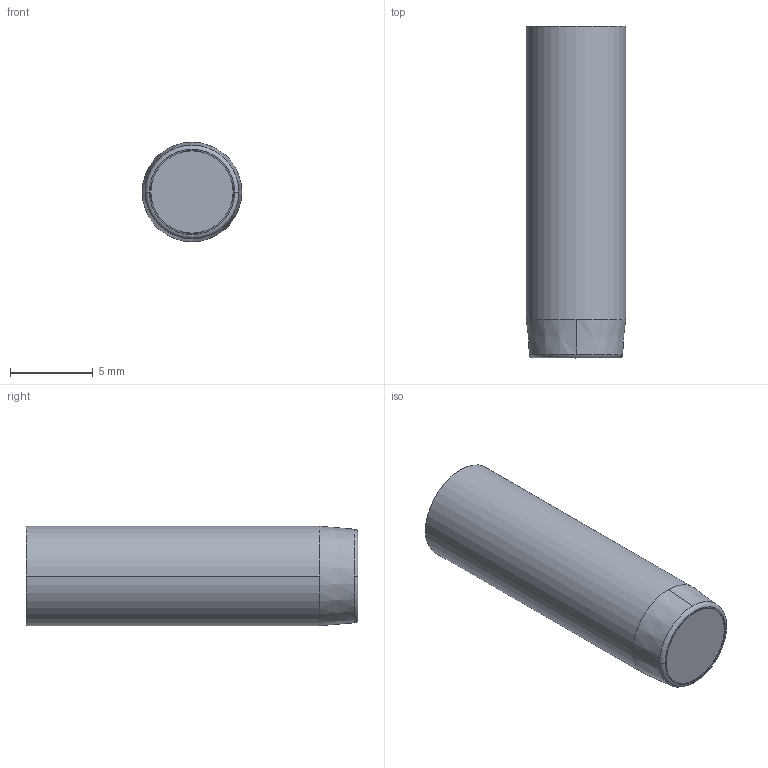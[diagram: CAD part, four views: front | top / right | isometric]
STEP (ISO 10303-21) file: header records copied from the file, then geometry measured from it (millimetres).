
FILE_DESCRIPTION (( 'STEP AP214' ), '1' );
FILE_NAME ('FA 063205-20.STEP', '2013-10-01T08:35:43', ( '' ), ( '' ), 'SwSTEP 2.0', 'SolidWorks 2011', '' );
FILE_SCHEMA (( 'AUTOMOTIVE_DESIGN' ));
Length unit declared in the file: millimetre
Products named in the file (6): IA 3217SF; FA 063200-1; FA 063205-20-1; FA 063205-20; FA 063200-3; FA 063200-2 - comprimido
Assembly tree (5 placements, depth 2):
  FA 063205-20
    FA 063200-3
    FA 063205-20-1
    IA 3217SF
    FA 063200-1
    FA 063200-2 - comprimido
Bounding box: 6 x 20 x 6 mm (x, y, z)
Volume: 469.9 mm3; surface area: 1125.7 mm2
Topology: 5 solids, 5 shells, 244 faces, 620 edges, 403 vertices
Faces by surface type: plane 115, cylinder 95, cone 22, torus 10, bspline 2
Entity records: 9448 total; most frequent: CARTESIAN_POINT 3119, DIRECTION 1320, ORIENTED_EDGE 1236, EDGE_CURVE 618, AXIS2_PLACEMENT_3D 488, VERTEX_POINT 403, LINE 344, VECTOR 344
